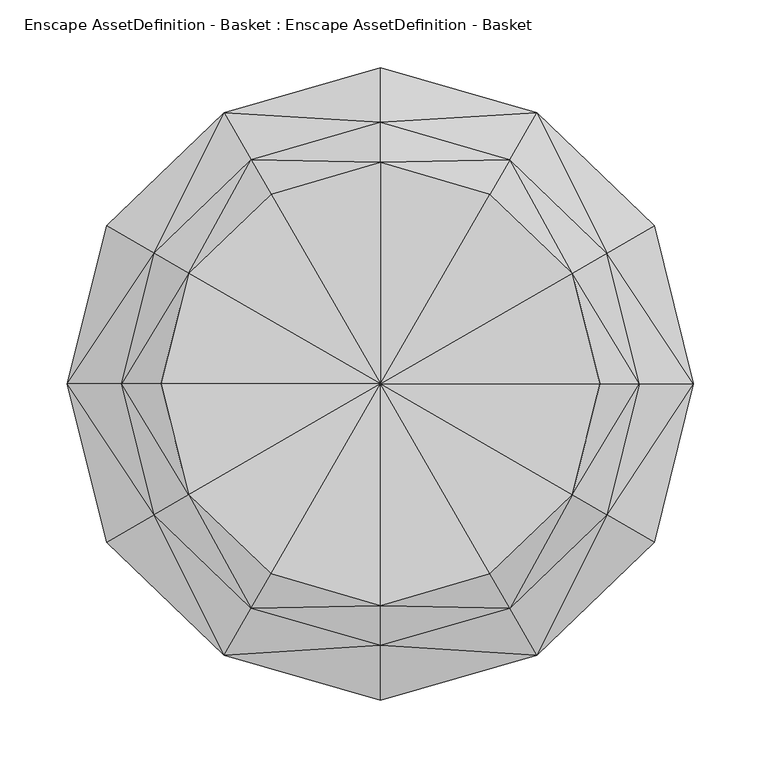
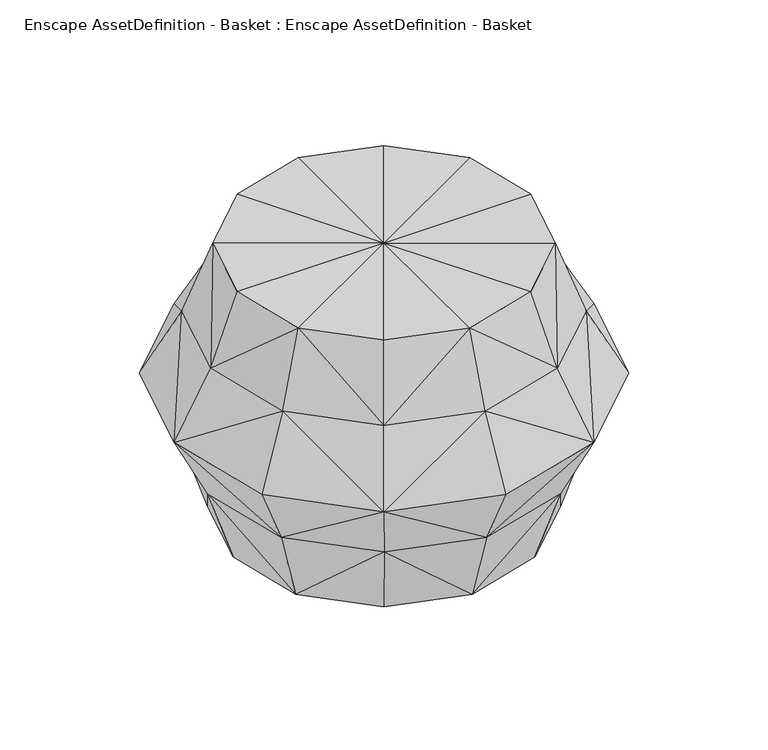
"""IFC4 building model written with IfcOpenShell, lengths in millimetres: geographic element geometry, Enscape AssetDefinition - Basket : Enscape AssetDefinition - Basket."""

from ifc_helpers import new_model, si_unit, origin, place, context, project, spatial, faceted_brep, source, transform, mapped, element, save


def enscape_assetdefinition_basket_enscape_assetdefinition_b8fa298a(model_context):
    return source(origin(), model_context, "Body", "Brep", [
        faceted_brep([(83.5988075, 144.7973549, 0.0), (97.4742919, 168.8304245, 83.5944712), (146.2979168, 84.4651088, 0.0), (0.0, 196.9688088, 83.5944712), (116.0603166, 201.0222971, 156.7133069), (170.5800444, 98.4843895, 83.5944712), (0.0, 168.9302623, 0.0), (0.0, 0.0, 0.0), (-83.5988075, 144.7973549, 0.0), (-97.4742919, 168.8304245, 83.5944712), (-170.5800146, 98.4844044, 83.5944712), (-116.0603166, 201.0223269, 156.7133069), (-146.2979168, 84.4651312, 0.0), (-167.1976, -1.2e-05, 0.0), (-194.9485689, -1.2e-05, 83.5944712), (-232.1205735, -1.2e-05, 156.7133069), (-203.1055242, 117.2630265, 156.7133069), (-170.5799997, -98.4844193, 83.5944712), (-146.297887, -84.4651535, 0.0), (-83.5988, -144.7973549, 0.0), (-97.4742696, -168.8304394, 83.5944712), (-116.0602793, -201.0223418, 156.7133069), (-203.1055093, -117.263034, 156.7133069), (2.4e-05, -196.9688386, 83.5944712), (1.2e-05, -168.9302623, 0.0), (83.5988075, -144.7973549, 0.0), (97.4742919, -168.8304245, 83.5944712), (116.0603166, -201.0222971, 156.7133069), (2.4e-05, -234.5260531, 156.7133069), (170.5800444, -98.4843895, 83.5944712), (146.2979168, -84.4651088, 0.0), (167.1976, 0.0, 0.0), (194.9485838, 0.0, 83.5944712), (232.1206331, 0.0, 156.7133069), (203.1055242, -117.2630265, 156.7133069), (203.1055242, 117.2630265, 156.7133069), (95.8895683, 166.0856009, 229.5985222), (167.8067595, 96.8832597, 229.5985222), (0.0, 193.7665343, 229.5985222), (0.0, 234.5260531, 156.7133069), (142.2102749, 82.1051225, 309.2326224), (191.7791516, 0.0, 229.5985222), (81.2630206, 140.751645, 309.2326224), (0.0, 164.2102748, 309.2326224), (162.5260264, 0.0, 309.2326224), (1.2e-05, 0.0, 309.2326522), (167.8067595, -96.8832597, 229.5985222), (142.2102898, -82.1051225, 309.2326224), (81.2630281, -140.751645, 309.2326224), (95.8895907, -166.0856009, 229.5985222), (2.4e-05, -193.7665343, 229.5985222), (2.4e-05, -164.2102748, 309.2326224), (-81.2629908, -140.7516599, 309.2326224), (-95.8895683, -166.0856158, 229.5985222), (-167.8067446, -96.8832672, 229.5985222), (-142.2102451, -82.1051374, 309.2326224), (-162.5259817, 0.0, 309.2326224), (-191.7791367, -1.2e-05, 229.5985222), (-167.8067446, 96.8832672, 229.5985222), (-142.2102451, 82.1051374, 309.2326224), (-81.2630057, 140.7516599, 309.2326224), (-95.8895683, 166.0856158, 229.5985222)], [[[0, 1, 2]], [[1, 3, 4]], [[1, 4, 5]], [[0, 6, 1]], [[2, 1, 5]], [[1, 6, 3]], [[7, 6, 0]], [[7, 0, 2]], [[8, 9, 6]], [[7, 8, 6]], [[6, 9, 3]], [[9, 10, 11]], [[9, 11, 3]], [[10, 9, 12]], [[12, 9, 8]], [[7, 12, 8]], [[13, 14, 12]], [[7, 13, 12]], [[12, 14, 10]], [[14, 15, 10]], [[10, 15, 16]], [[11, 10, 16]], [[14, 17, 15]], [[13, 18, 14]], [[14, 18, 17]], [[7, 18, 13]], [[19, 20, 18]], [[7, 19, 18]], [[18, 20, 17]], [[20, 21, 17]], [[15, 17, 22]], [[17, 21, 22]], [[20, 23, 21]], [[23, 20, 24]], [[24, 20, 19]], [[7, 24, 19]], [[25, 26, 24]], [[7, 25, 24]], [[24, 26, 23]], [[26, 27, 23]], [[23, 27, 28]], [[21, 23, 28]], [[26, 29, 27]], [[25, 30, 26]], [[26, 30, 29]], [[7, 30, 25]], [[31, 32, 30]], [[7, 31, 30]], [[30, 32, 29]], [[32, 33, 29]], [[27, 29, 34]], [[29, 33, 34]], [[32, 5, 33]], [[5, 32, 2]], [[2, 32, 31]], [[7, 2, 31]], [[5, 4, 35]], [[33, 5, 35]], [[36, 37, 4]], [[36, 4, 38]], [[4, 3, 39]], [[4, 37, 35]], [[38, 4, 39]], [[37, 33, 35]], [[37, 36, 40]], [[41, 33, 37]], [[40, 41, 37]], [[42, 36, 43]], [[43, 36, 38]], [[40, 36, 42]], [[44, 41, 40]], [[45, 40, 42]], [[45, 44, 40]], [[46, 41, 47]], [[41, 46, 33]], [[47, 41, 44]], [[45, 47, 44]], [[48, 49, 47]], [[45, 48, 47]], [[47, 49, 46]], [[49, 27, 46]], [[46, 27, 34]], [[33, 46, 34]], [[50, 49, 51]], [[49, 50, 27]], [[51, 49, 48]], [[45, 51, 48]], [[52, 53, 51]], [[45, 52, 51]], [[51, 53, 50]], [[53, 21, 50]], [[27, 50, 28]], [[50, 21, 28]], [[54, 53, 55]], [[53, 54, 21]], [[55, 53, 52]], [[45, 55, 52]], [[56, 57, 55]], [[45, 56, 55]], [[55, 57, 54]], [[57, 15, 54]], [[54, 15, 22]], [[21, 54, 22]], [[58, 57, 59]], [[57, 58, 15]], [[59, 57, 56]], [[45, 59, 56]], [[60, 61, 59]], [[45, 60, 59]], [[59, 61, 58]], [[61, 11, 58]], [[15, 58, 16]], [[58, 11, 16]], [[38, 61, 43]], [[61, 38, 11]], [[43, 61, 60]], [[45, 43, 60]], [[45, 42, 43]], [[3, 11, 39]], [[11, 38, 39]]]),
    ])


if __name__ == "__main__":
    model = new_model("IFC4")
    model_context = context("Model", 3, world=origin())
    ifc_project = project(units=[si_unit("LENGTHUNIT", "METRE", prefix="MILLI")], contexts=[model_context])
    site = spatial("IfcSite", under=ifc_project)
    building = spatial("IfcBuilding", under=site)
    placement = place(None, origin())
    enscape_assetdefinition_basket_enscape_assetdefinition_shape = enscape_assetdefinition_basket_enscape_assetdefinition_b8fa298a(model_context)
    element("IfcGeographicElement", 1, ObjectType="Enscape AssetDefinition - Basket : Enscape AssetDefinition - Basket", at=placement, inside=building, context=model_context, shape_type="MappedRepresentation", body=[
        mapped(enscape_assetdefinition_basket_enscape_assetdefinition_shape, transform((0.0, 0.0, 0.0), x_axis=(1.0, 0.0, 0.0), y_axis=(0.0, 1.0, 0.0), z_axis=(0.0, 0.0, 1.0))),
    ])
    save(model, "model.ifc")
